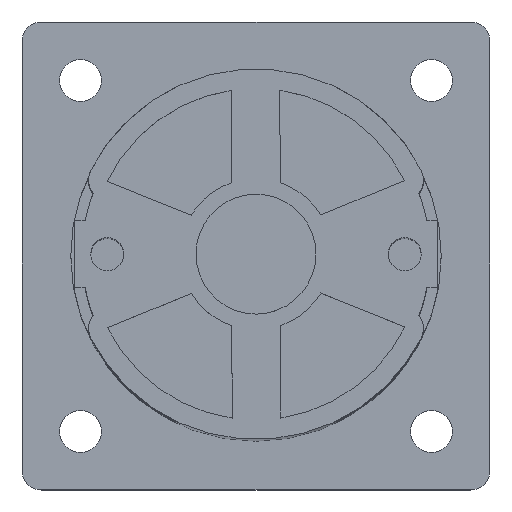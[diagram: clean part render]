
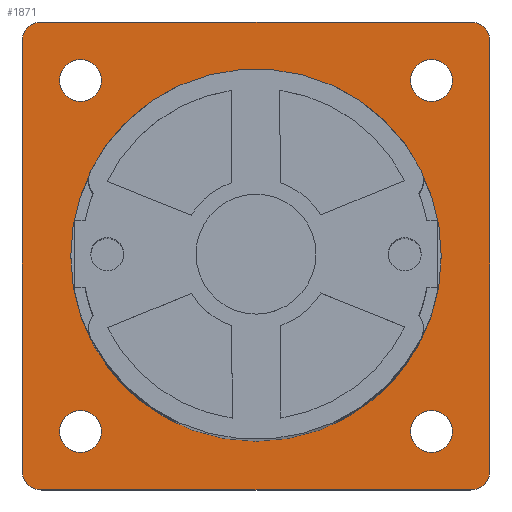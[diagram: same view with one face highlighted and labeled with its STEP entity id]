
A CAD part, top view. The second image highlights one B-rep face of the part: STEP entity #1871.
In plain terms, the highlighted planar face has unit normal (0, 0, 1).
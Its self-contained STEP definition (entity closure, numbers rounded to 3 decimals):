
#465=FACE_BOUND('',#5135,.T.);
#466=FACE_BOUND('',#5136,.T.);
#467=FACE_BOUND('',#5137,.T.);
#468=FACE_BOUND('',#5138,.T.);
#469=FACE_BOUND('',#5139,.T.);
#470=FACE_BOUND('',#5140,.T.);
#826=CIRCLE('',#22116,2.15);
#830=CIRCLE('',#22123,2.15);
#834=CIRCLE('',#22130,2.15);
#838=CIRCLE('',#22137,2.15);
#875=CIRCLE('',#22211,19.);
#920=CIRCLE('',#22306,2.);
#921=CIRCLE('',#22308,2.);
#922=CIRCLE('',#22310,2.);
#923=CIRCLE('',#22312,2.);
#1871=ADVANCED_FACE('',(#465,#466,#467,#468,#469,#470),#3030,.F.);
#3030=PLANE('',#22319);
#5135=EDGE_LOOP('',(#7122,#7123,#7124,#7125,#7126,#7127,#7128,#7129));
#5136=EDGE_LOOP('',(#7130));
#5137=EDGE_LOOP('',(#7131));
#5138=EDGE_LOOP('',(#7132));
#5139=EDGE_LOOP('',(#7133));
#5140=EDGE_LOOP('',(#7134));
#7122=ORIENTED_EDGE('',*,*,#15286,.F.);
#7123=ORIENTED_EDGE('',*,*,#15273,.F.);
#7124=ORIENTED_EDGE('',*,*,#15283,.F.);
#7125=ORIENTED_EDGE('',*,*,#15276,.F.);
#7126=ORIENTED_EDGE('',*,*,#15284,.F.);
#7127=ORIENTED_EDGE('',*,*,#15279,.F.);
#7128=ORIENTED_EDGE('',*,*,#15285,.F.);
#7129=ORIENTED_EDGE('',*,*,#15282,.F.);
#7130=ORIENTED_EDGE('',*,*,#15142,.F.);
#7131=ORIENTED_EDGE('',*,*,#14993,.T.);
#7132=ORIENTED_EDGE('',*,*,#14989,.T.);
#7133=ORIENTED_EDGE('',*,*,#14985,.T.);
#7134=ORIENTED_EDGE('',*,*,#14981,.T.);
#12800=VERTEX_POINT('',#30199);
#12804=VERTEX_POINT('',#30210);
#12808=VERTEX_POINT('',#30221);
#12812=VERTEX_POINT('',#30232);
#12957=VERTEX_POINT('',#30527);
#13046=VERTEX_POINT('',#30795);
#13047=VERTEX_POINT('',#30797);
#13048=VERTEX_POINT('',#30801);
#13049=VERTEX_POINT('',#30803);
#13050=VERTEX_POINT('',#30807);
#13051=VERTEX_POINT('',#30809);
#13052=VERTEX_POINT('',#30813);
#13053=VERTEX_POINT('',#30815);
#14981=EDGE_CURVE('',#12800,#12800,#826,.T.);
#14985=EDGE_CURVE('',#12804,#12804,#830,.T.);
#14989=EDGE_CURVE('',#12808,#12808,#834,.T.);
#14993=EDGE_CURVE('',#12812,#12812,#838,.T.);
#15142=EDGE_CURVE('',#12957,#12957,#875,.T.);
#15273=EDGE_CURVE('',#13047,#13046,#920,.T.);
#15276=EDGE_CURVE('',#13049,#13048,#921,.T.);
#15279=EDGE_CURVE('',#13051,#13050,#922,.T.);
#15282=EDGE_CURVE('',#13053,#13052,#923,.T.);
#15283=EDGE_CURVE('',#13048,#13047,#18232,.T.);
#15284=EDGE_CURVE('',#13050,#13049,#18233,.T.);
#15285=EDGE_CURVE('',#13052,#13051,#18234,.T.);
#15286=EDGE_CURVE('',#13046,#13053,#18235,.T.);
#18232=LINE('',#30818,#20261);
#18233=LINE('',#30820,#20262);
#18234=LINE('',#30822,#20263);
#18235=LINE('',#30824,#20264);
#20261=VECTOR('',#24856,1.);
#20262=VECTOR('',#24859,1.);
#20263=VECTOR('',#24862,1.);
#20264=VECTOR('',#24865,1.);
#22116=AXIS2_PLACEMENT_3D('',#30198,#24292,#24293);
#22123=AXIS2_PLACEMENT_3D('',#30209,#24306,#24307);
#22130=AXIS2_PLACEMENT_3D('',#30220,#24320,#24321);
#22137=AXIS2_PLACEMENT_3D('',#30231,#24334,#24335);
#22211=AXIS2_PLACEMENT_3D('',#30526,#24558,#24559);
#22306=AXIS2_PLACEMENT_3D('',#30798,#24834,#24835);
#22308=AXIS2_PLACEMENT_3D('',#30804,#24840,#24841);
#22310=AXIS2_PLACEMENT_3D('',#30810,#24846,#24847);
#22312=AXIS2_PLACEMENT_3D('',#30816,#24852,#24853);
#22319=AXIS2_PLACEMENT_3D('',#30827,#24870,#24871);
#24292=DIRECTION('',(0.,0.,-1.));
#24293=DIRECTION('',(-1.,0.,0.));
#24306=DIRECTION('',(0.,0.,-1.));
#24307=DIRECTION('',(-1.,0.,0.));
#24320=DIRECTION('',(0.,0.,-1.));
#24321=DIRECTION('',(-1.,0.,0.));
#24334=DIRECTION('',(0.,0.,-1.));
#24335=DIRECTION('',(-1.,0.,0.));
#24558=DIRECTION('',(0.,0.,1.));
#24559=DIRECTION('',(-1.,0.,0.));
#24834=DIRECTION('',(0.,0.,-1.));
#24835=DIRECTION('',(1.,0.,0.));
#24840=DIRECTION('',(0.,0.,-1.));
#24841=DIRECTION('',(1.,0.,0.));
#24846=DIRECTION('',(0.,0.,-1.));
#24847=DIRECTION('',(1.,0.,0.));
#24852=DIRECTION('',(0.,0.,-1.));
#24853=DIRECTION('',(1.,0.,0.));
#24856=DIRECTION('',(0.,-1.,0.));
#24859=DIRECTION('',(1.,0.,0.));
#24862=DIRECTION('',(0.,1.,0.));
#24865=DIRECTION('',(-1.,0.,0.));
#24870=DIRECTION('',(0.,0.,-1.));
#24871=DIRECTION('',(-1.,0.,0.));
#30198=CARTESIAN_POINT('',(18.,-18.,2.5));
#30199=CARTESIAN_POINT('',(15.85,-18.,2.5));
#30209=CARTESIAN_POINT('',(18.,18.,2.5));
#30210=CARTESIAN_POINT('',(15.85,18.,2.5));
#30220=CARTESIAN_POINT('',(-18.,18.,2.5));
#30221=CARTESIAN_POINT('',(-20.15,18.,2.5));
#30231=CARTESIAN_POINT('',(-18.,-18.,2.5));
#30232=CARTESIAN_POINT('',(-20.15,-18.,2.5));
#30526=CARTESIAN_POINT('',(0.,0.,2.5));
#30527=CARTESIAN_POINT('',(-19.,0.,2.5));
#30795=CARTESIAN_POINT('',(22.,-24.,2.5));
#30797=CARTESIAN_POINT('',(24.,-22.,2.5));
#30798=CARTESIAN_POINT('',(22.,-22.,2.5));
#30801=CARTESIAN_POINT('',(24.,22.,2.5));
#30803=CARTESIAN_POINT('',(22.,24.,2.5));
#30804=CARTESIAN_POINT('',(22.,22.,2.5));
#30807=CARTESIAN_POINT('',(-22.,24.,2.5));
#30809=CARTESIAN_POINT('',(-24.,22.,2.5));
#30810=CARTESIAN_POINT('',(-22.,22.,2.5));
#30813=CARTESIAN_POINT('',(-24.,-22.,2.5));
#30815=CARTESIAN_POINT('',(-22.,-24.,2.5));
#30816=CARTESIAN_POINT('',(-22.,-22.,2.5));
#30818=CARTESIAN_POINT('',(24.,22.,2.5));
#30820=CARTESIAN_POINT('',(-22.,24.,2.5));
#30822=CARTESIAN_POINT('',(-24.,-22.,2.5));
#30824=CARTESIAN_POINT('',(22.,-24.,2.5));
#30827=CARTESIAN_POINT('',(-22.,-22.,2.5));
